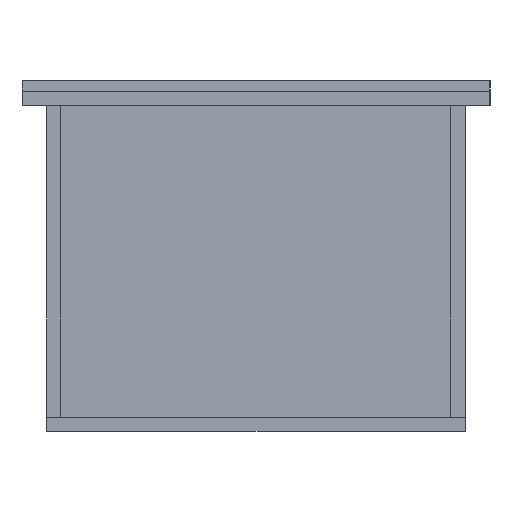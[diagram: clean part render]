
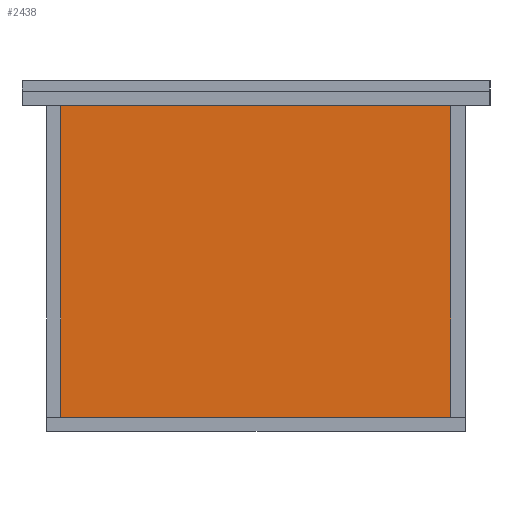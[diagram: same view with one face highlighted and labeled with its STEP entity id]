
A CAD part, left-side view. The second image highlights one B-rep face of the part: STEP entity #2438.
In plain terms, the highlighted planar face has unit normal (-1, 0, 0) as drawn and (0, 0, 1) by its records, which use the part's own axes.
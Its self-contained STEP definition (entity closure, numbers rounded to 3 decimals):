
#64 = CARTESIAN_POINT ( 'NONE',  ( 0., 440., 20. ) ) ;
#389 = DIRECTION ( 'NONE',  ( 0., -1., 0. ) ) ;
#448 = CARTESIAN_POINT ( 'NONE',  ( 550., 0., 20. ) ) ;
#492 = ORIENTED_EDGE ( 'NONE', *, *, #1879, .T. ) ;
#1309 = VERTEX_POINT ( 'NONE', #6067 ) ;
#1511 = EDGE_LOOP ( 'NONE', ( #492, #4933, #5303, #3146 ) ) ;
#1651 = LINE ( 'NONE', #5474, #3441 ) ;
#1652 = VERTEX_POINT ( 'NONE', #5477 ) ;
#1879 = EDGE_CURVE ( 'NONE', #6590, #6556, #5024, .T. ) ;
#1967 = PLANE ( 'NONE',  #2710 ) ;
#2111 = LINE ( 'NONE', #448, #5950 ) ;
#2169 = CARTESIAN_POINT ( 'NONE',  ( 0., 0., 20. ) ) ;
#2438 = ADVANCED_FACE ( 'NONE', ( #5512 ), #1967, .F. ) ;
#2710 = AXIS2_PLACEMENT_3D ( 'NONE', #6093, #5623, #6676 ) ;
#2944 = DIRECTION ( 'NONE',  ( 1., 0., 0. ) ) ;
#3146 = ORIENTED_EDGE ( 'NONE', *, *, #5782, .T. ) ;
#3228 = CARTESIAN_POINT ( 'NONE',  ( 0., 440., 20. ) ) ;
#3441 = VECTOR ( 'NONE', #2944, 1000. ) ;
#3508 = CARTESIAN_POINT ( 'NONE',  ( 0., 0., 20. ) ) ;
#3887 = VECTOR ( 'NONE', #389, 1000. ) ;
#4188 = EDGE_CURVE ( 'NONE', #6556, #1652, #1651, .T. ) ;
#4764 = DIRECTION ( 'NONE',  ( -1., 0., 0. ) ) ;
#4933 = ORIENTED_EDGE ( 'NONE', *, *, #4188, .T. ) ;
#5024 = LINE ( 'NONE', #3508, #3887 ) ;
#5058 = EDGE_CURVE ( 'NONE', #1652, #1309, #2111, .T. ) ;
#5303 = ORIENTED_EDGE ( 'NONE', *, *, #5058, .T. ) ;
#5474 = CARTESIAN_POINT ( 'NONE',  ( 0., 0., 20. ) ) ;
#5477 = CARTESIAN_POINT ( 'NONE',  ( 550., 0., 20. ) ) ;
#5481 = VECTOR ( 'NONE', #4764, 1000. ) ;
#5512 = FACE_OUTER_BOUND ( 'NONE', #1511, .T. ) ;
#5623 = DIRECTION ( 'NONE',  ( 0., 0., -1. ) ) ;
#5782 = EDGE_CURVE ( 'NONE', #1309, #6590, #6036, .T. ) ;
#5950 = VECTOR ( 'NONE', #6681, 1000. ) ;
#6036 = LINE ( 'NONE', #64, #5481 ) ;
#6067 = CARTESIAN_POINT ( 'NONE',  ( 550., 440., 20. ) ) ;
#6093 = CARTESIAN_POINT ( 'NONE',  ( 0., 0., 20. ) ) ;
#6556 = VERTEX_POINT ( 'NONE', #2169 ) ;
#6590 = VERTEX_POINT ( 'NONE', #3228 ) ;
#6676 = DIRECTION ( 'NONE',  ( -1., 0., 0. ) ) ;
#6681 = DIRECTION ( 'NONE',  ( 0., 1., 0. ) ) ;
